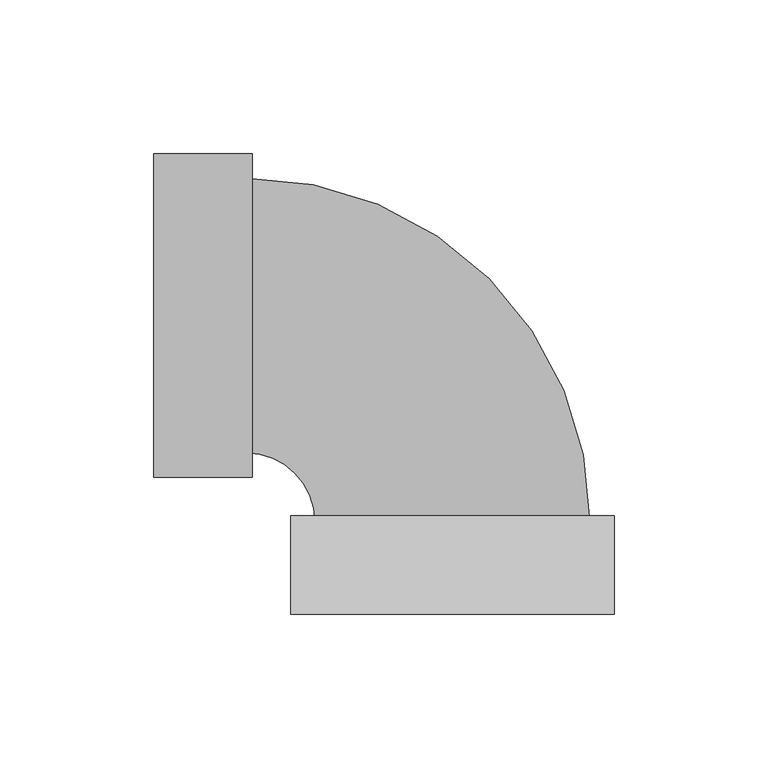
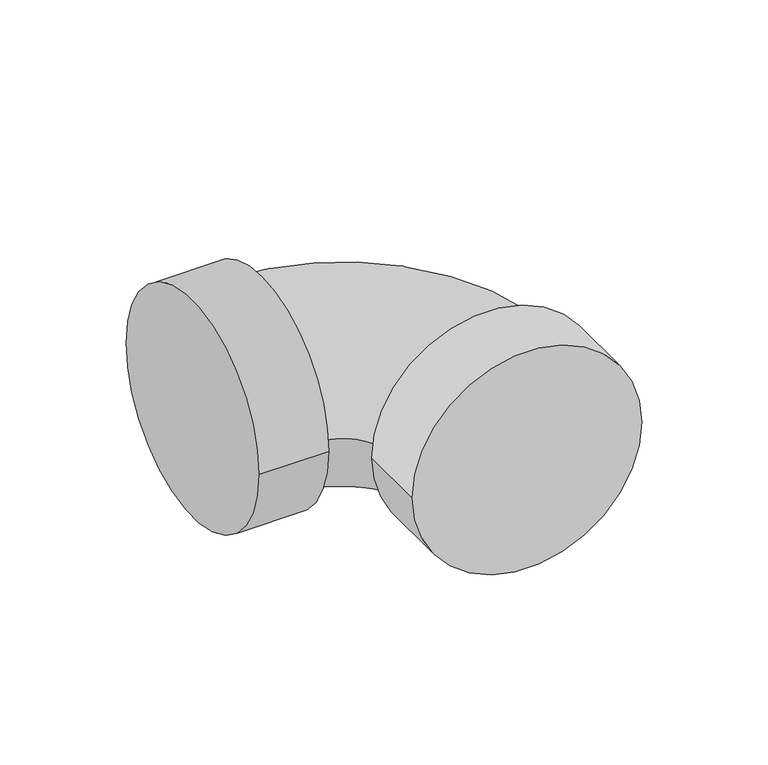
"""IFC4 building model written with IfcOpenShell, lengths in millimetres: pipe fitting geometry, 01011001 : Coudes à 90º."""

import ifcopenshell
import ifcopenshell.guid

model = None  # the IFC model being written
_history = None  # IfcOwnerHistory: only IFC2X3 demands one
_inside = {}  # id of a spatial element -> (the spatial element, [elements in it])
_under = {}  # id of a project, library or spatial element -> (it, [spatial elements below it])
_declared = {}  # id of a project -> (the project, [libraries it declares])
_typed = {}  # id of a type object -> (the type object, [elements of that type])
_made_of = {}  # id of a material, layer set ... -> (it, [elements and type objects made of it])


def new_model(schema):
    """Start an empty IFC model of exactly this schema.

    Asked for "IFC4X3", IfcOpenShell would pick the latest addendum, in which some entities
    have other attributes; the version numbers below select the first issue.
    IFC2X3 requires an IfcOwnerHistory on every rooted entity: one is made here for all.
    """
    global model, _history
    if schema == "IFC4X3":
        model = ifcopenshell.file(schema_version=(4, 3, 0, 0))
    else:
        model = ifcopenshell.file(schema=schema)
    _inside.clear()
    _under.clear()
    _declared.clear()
    _typed.clear()
    _made_of.clear()
    _history = None
    if model.schema == "IFC2X3":
        org = make("IfcOrganization", Name="unknown")
        user = make(
            "IfcPersonAndOrganization",
            ThePerson=make("IfcPerson", FamilyName="unknown"),
            TheOrganization=org,
        )
        app = make(
            "IfcApplication",
            ApplicationDeveloper=org,
            Version="unknown",
            ApplicationFullName="unknown",
            ApplicationIdentifier="unknown",
        )
        _history = make(
            "IfcOwnerHistory",
            OwningUser=user,
            OwningApplication=app,
            ChangeAction="ADDED",
            CreationDate=0,
        )
    return model


def make(cls, **values):
    """One entity of the class cls with the attributes given. An attribute that is None is left unset."""
    return model.create_entity(
        cls, **{name: value for name, value in values.items() if value is not None}
    )


def rooted(cls, **values):
    """An entity with a GlobalId (a new one), such as an element, a storey or a relation."""
    return make(cls, GlobalId=ifcopenshell.guid.new(), OwnerHistory=_history, **values)


def si_unit(unit_type, name, prefix=None):
    """IfcSIUnit, for example si_unit("LENGTHUNIT", "METRE", prefix="MILLI")."""
    return make("IfcSIUnit", UnitType=unit_type, Prefix=prefix, Name=name)


def assignment(units):
    """IfcUnitAssignment: the units of a project."""
    return None if units is None else make("IfcUnitAssignment", Units=units)


def point(xyz):
    """IfcCartesianPoint."""
    return None if xyz is None else make("IfcCartesianPoint", Coordinates=xyz)


def direction(xyz):
    """IfcDirection."""
    return None if xyz is None else make("IfcDirection", DirectionRatios=xyz)


def frame(location, z_axis=None, x_axis=None):
    """IfcAxis2Placement3D, a coordinate frame: its origin and axes. An axis left out is left unset."""
    return make(
        "IfcAxis2Placement3D",
        Location=point(location),
        Axis=direction(z_axis),
        RefDirection=direction(x_axis),
    )


def frame_2d(location, x_axis=None):
    """IfcAxis2Placement2D, a coordinate frame in the plane: its origin and x axis."""
    return make(
        "IfcAxis2Placement2D", Location=point(location), RefDirection=direction(x_axis)
    )


def origin():
    """The frame at (0, 0, 0) with its axes left unset."""
    return frame((0.0, 0.0, 0.0))


def origin_2d():
    """The frame at (0, 0) in the plane with its x axis left unset."""
    return frame_2d((0.0, 0.0))


def place(relative_to, where):
    """IfcLocalPlacement: puts the frame where relative to a parent placement (None: the world)."""
    return make(
        "IfcLocalPlacement", PlacementRelTo=relative_to, RelativePlacement=where
    )


def context(
    kind, dimensions, precision=None, world=None, true_north=None, identifier=None
):
    """IfcGeometricRepresentationContext, for example the 3D "Model" context."""
    return make(
        "IfcGeometricRepresentationContext",
        ContextIdentifier=identifier,
        ContextType=kind,
        CoordinateSpaceDimension=dimensions,
        Precision=precision,
        WorldCoordinateSystem=world,
        TrueNorth=true_north,
    )


def project(units=None, contexts=None):
    """IfcProject with its units and contexts."""
    return rooted(
        "IfcProject",
        Name="project",
        RepresentationContexts=contexts,
        UnitsInContext=assignment(units),
    )


def spatial(cls, under=None, at=None, **own):
    """A site, building, storey or space (cls), placed at a placement, below another one or the project."""
    s = rooted(cls, ObjectPlacement=at, **own)
    if under is not None:
        _under.setdefault(under.id(), (under, []))[1].append(s)
    return s


def circle_curve(where, radius):
    """IfcCircle in the frame where."""
    return make("IfcCircle", Position=where, Radius=radius)


def ellipse_curve(where, semi_axis1, semi_axis2):
    """IfcEllipse in the frame where."""
    return make(
        "IfcEllipse", Position=where, SemiAxis1=semi_axis1, SemiAxis2=semi_axis2
    )


def trimmed(basis, trim1, trim2, sense, master):
    """IfcTrimmedCurve: the piece of a basis curve between two trims."""
    return make(
        "IfcTrimmedCurve",
        BasisCurve=basis,
        Trim1=trim1,
        Trim2=trim2,
        SenseAgreement=sense,
        MasterRepresentation=master,
    )


def segment(curve, same_sense, transition):
    """IfcCompositeCurveSegment."""
    return make(
        "IfcCompositeCurveSegment",
        Transition=transition,
        SameSense=same_sense,
        ParentCurve=curve,
    )


def composite_curve(segments, self_intersect=None):
    """IfcCompositeCurve: segments joined end to end."""
    return make("IfcCompositeCurve", Segments=segments, SelfIntersect=self_intersect)


def outline(outer, holes=None, kind="AREA"):
    """IfcArbitraryClosedProfileDef: a profile drawn as a closed curve; with holes, ...WithVoids."""
    if holes is None:
        return make("IfcArbitraryClosedProfileDef", ProfileType=kind, OuterCurve=outer)
    return make(
        "IfcArbitraryProfileDefWithVoids",
        ProfileType=kind,
        OuterCurve=outer,
        InnerCurves=holes,
    )


def extrude(swept, where, along, depth):
    """IfcExtrudedAreaSolid: the profile swept, set in the frame where, extruded along a direction by depth."""
    return make(
        "IfcExtrudedAreaSolid",
        SweptArea=swept,
        Position=where,
        ExtrudedDirection=direction(along),
        Depth=depth,
    )


def shape(context_of_items, identifier, shape_type, items):
    """IfcShapeRepresentation: the items that make up one representation, for example the "Body"."""
    return make(
        "IfcShapeRepresentation",
        ContextOfItems=context_of_items,
        RepresentationIdentifier=identifier,
        RepresentationType=shape_type,
        Items=items,
    )


def source(mapping_origin, context_of_items, identifier, shape_type, items):
    """IfcRepresentationMap: a shape defined once, which mapped items show again and again."""
    return make(
        "IfcRepresentationMap",
        MappingOrigin=mapping_origin,
        MappedRepresentation=shape(context_of_items, identifier, shape_type, items),
    )


def transform(
    local_origin,
    x_axis=None,
    y_axis=None,
    z_axis=None,
    scale=None,
    scale2=None,
    scale3=None,
    uniform=True,
):
    """IfcCartesianTransformationOperator3D, or its non-uniform kind. x_axis, y_axis, z_axis: its Axis1, 2, 3."""
    if uniform:
        return make(
            "IfcCartesianTransformationOperator3D",
            Axis1=direction(x_axis),
            Axis2=direction(y_axis),
            LocalOrigin=point(local_origin),
            Scale=scale,
            Axis3=direction(z_axis),
        )
    return make(
        "IfcCartesianTransformationOperator3DnonUniform",
        Axis1=direction(x_axis),
        Axis2=direction(y_axis),
        LocalOrigin=point(local_origin),
        Scale=scale,
        Axis3=direction(z_axis),
        Scale2=scale2,
        Scale3=scale3,
    )


def mapped(mapping_source, mapping_target):
    """IfcMappedItem: shows the shape of a source again, moved by a transform."""
    return make(
        "IfcMappedItem", MappingSource=mapping_source, MappingTarget=mapping_target
    )


def made_of(thing, what):
    """Note that an element or type object is made of a material, layer set ...; save() writes the relation."""
    if what is not None:
        _made_of.setdefault(what.id(), (what, []))[1].append(thing)
    return thing


def element(
    cls,
    number,
    at=None,
    inside=None,
    cuts=None,
    type_object=None,
    material=None,
    context=None,
    identifier="Body",
    shape_type=None,
    held_by="IfcProductDefinitionShape",
    body=None,
    shapes=None,
    **own,
):
    """One element of the class cls, such as IfcWall. Its Tag is "e" and its number.

    at: its placement. inside: the storey or other place that contains it. cuts: it is an
    opening in that element (IfcRelVoidsElement). A single representation is given by context,
    identifier, shape_type and body (its items); several are given by shapes. held_by: the class
    of the entity that holds the representations. save() writes the other relations.
    """
    e = rooted(cls, Tag="e%d" % number, ObjectPlacement=at, **own)
    if body is not None:
        shapes = [shape(context, identifier, shape_type, body)]
    if shapes is not None:
        e.Representation = make(held_by, Representations=shapes)
    if inside is not None:
        _inside.setdefault(inside.id(), (inside, []))[1].append(e)
    if cuts is not None:
        rooted(
            "IfcRelVoidsElement", RelatingBuildingElement=cuts, RelatedOpeningElement=e
        )
    if type_object is not None:
        _typed.setdefault(type_object.id(), (type_object, []))[1].append(e)
    return made_of(e, material)


def aggregate(whole, parts):
    """IfcRelAggregates: a whole, such as a stair, and the parts it consists of."""
    return rooted("IfcRelAggregates", RelatingObject=whole, RelatedObjects=parts)


def save(model, path):
    """Write the relations noted so far, then the file.

    IfcRelAggregates (storeys below a building ...), IfcRelContainedInSpatialStructure (elements
    in a storey), IfcRelDefinesByType, IfcRelAssociatesMaterial and IfcRelDeclares: one each for
    every whole, place, type object, material and project.
    """
    for whole, parts in _under.values():
        aggregate(whole, parts)
    for where, things in _inside.values():
        rooted(
            "IfcRelContainedInSpatialStructure",
            RelatedElements=things,
            RelatingStructure=where,
        )
    for kind, things in _typed.values():
        rooted("IfcRelDefinesByType", RelatedObjects=things, RelatingType=kind)
    for what, things in _made_of.values():
        rooted("IfcRelAssociatesMaterial", RelatedObjects=things, RelatingMaterial=what)
    for by, libraries in _declared.values():
        rooted("IfcRelDeclares", RelatingContext=by, RelatedDefinitions=libraries)
    model.write(path)


def plane_surface(at):
    """IfcPlane: the flat surface through the origin of the frame at, square to its z axis."""
    return make("IfcPlane", Position=at)


def revolved_surface(curve, axis_point, axis_direction):
    """IfcSurfaceOfRevolution: the curve turned about the line through axis_point along axis_direction."""
    return make(
        "IfcSurfaceOfRevolution",
        SweptCurve=make("IfcArbitraryOpenProfileDef", ProfileType="CURVE", Curve=curve),
        AxisPosition=make("IfcAxis1Placement", Location=point(axis_point), Axis=direction(axis_direction)),
    )


def advanced_brep(points, edges, surfaces, faces):
    """IfcAdvancedBrep: a solid bounded by faces that lie on surfaces and meet in shared edges.

    An edge is (start, end): straight between two places in points (the first is 0);
    or (start, end, curve); or (start, end, curve, False) where it runs against its curve.
    A face is (place in surfaces, loops), or (place, loops, False) where it looks against
    its surface's normal. A loop lists edges by number (the first is 1), with a minus sign
    where the edge is run from its end to its start. The first loop is the outer one.
    """
    corners = [point(p) for p in points]
    vertices = [make("IfcVertexPoint", VertexGeometry=c) for c in corners]
    made = []
    for start, end, *more in edges:
        made.append(
            make(
                "IfcEdgeCurve",
                EdgeStart=vertices[start],
                EdgeEnd=vertices[end],
                EdgeGeometry=more[0] if more else make("IfcPolyline", Points=[corners[start], corners[end]]),
                SameSense=more[1] if len(more) > 1 else True,
            )
        )
    hull = []
    for where, loops, *sense in faces:
        bounds = []
        for j, loop in enumerate(loops):
            ring = [make("IfcOrientedEdge", EdgeElement=made[abs(k) - 1], Orientation=k > 0) for k in loop]
            bounds.append(
                make(
                    "IfcFaceOuterBound" if j == 0 else "IfcFaceBound",
                    Bound=make("IfcEdgeLoop", EdgeList=ring),
                    Orientation=True,
                )
            )
        hull.append(make("IfcAdvancedFace", Bounds=bounds, FaceSurface=surfaces[where], SameSense=sense[0] if sense else True))
    return make("IfcAdvancedBrep", Outer=make("IfcClosedShell", CfsFaces=hull))


def pipe_fitting_355c8532(model_context):
    return source(origin(), model_context, "Body", "SolidModel", [
        extrude(outline(composite_curve([segment(trimmed(circle_curve(origin_2d(), 52.5), [point((0.0, -52.5))], [point((0.0, 52.5))], False, "CARTESIAN"), True, "CONTINUOUS"), segment(trimmed(circle_curve(origin_2d(), 52.5), [point((0.0, 52.5))], [point((0.0, -52.5))], False, "CARTESIAN"), True, "CONTINUOUS")], self_intersect=False)), frame((0.0, -97.0, 0.0), z_axis=(0.0, 1.0, 0.0), x_axis=(0.0, 0.0, 1.0)), (0.0, 0.0, 1.0), 32.0),
        extrude(outline(composite_curve([segment(trimmed(circle_curve(origin_2d(), 52.5), [point((52.5, 0.0))], [point((-52.5, 0.0))], False, "CARTESIAN"), True, "CONTINUOUS"), segment(trimmed(circle_curve(origin_2d(), 52.5), [point((-52.5, 0.0))], [point((52.5, 0.0))], False, "CARTESIAN"), True, "CONTINUOUS")], self_intersect=False)), frame((-97.0, 0.0, 0.0), z_axis=(1.0, 0.0, 0.0), x_axis=(0.0, 1.0, 0.0)), (0.0, 0.0, 1.0), 32.0),
        advanced_brep(
        [(-44.625, -67.0, 0.0), (44.625, -67.0, 0.0), (-67.0, -44.625, 0.0), (-67.0, 44.625, 0.0)],
        [
            (0, 1, circle_curve(frame((0.0, -67.0, 0.0), z_axis=(0.0, -1.0, 0.0), x_axis=(1.0, 0.0, 0.0)), 44.625)),
            (1, 0, circle_curve(frame((0.0, -67.0, 0.0), z_axis=(0.0, -1.0, 0.0), x_axis=(1.0, 0.0, 0.0)), 44.625)),
            (2, 3, circle_curve(frame((-67.0, 0.0, 0.0), z_axis=(-1.0, 0.0, 0.0), x_axis=(0.0, 1.0, 0.0)), 44.625)),
            (3, 2, circle_curve(frame((-67.0, 0.0, 0.0), z_axis=(-1.0, 0.0, 0.0), x_axis=(0.0, 1.0, 0.0)), 44.625)),
            (2, 0, circle_curve(frame((-67.0, -67.0, 0.0), z_axis=(0.0, 0.0, -1.0), x_axis=(1.0, 0.0, 0.0)), 22.375)),
            (1, 3, circle_curve(frame((-67.0, -67.0, 0.0), z_axis=(0.0, 0.0, 1.0), x_axis=(1.0, 0.0, 0.0)), 111.625)),
        ],
        [
            plane_surface(frame((0.0, -67.0, 0.0), z_axis=(0.0, -1.0, 0.0), x_axis=(0.0, 0.0, 1.0))),
            plane_surface(frame((-67.0, 0.0, 0.0), z_axis=(-1.0, 0.0, 0.0), x_axis=(0.0, 0.0, 1.0))),
            revolved_surface(trimmed(ellipse_curve(frame((0.0, -67.0, 0.0), z_axis=(0.0, 1.0, 0.0), x_axis=(1.0, 0.0, 0.0)), 44.625, 44.625), [point((-44.625, -67.0, 0.0))], [point((44.625, -67.0, 0.0))], True, "CARTESIAN"), (-67.0, -67.0, 0.0), (0.0, 0.0, -1.0)),
            revolved_surface(trimmed(ellipse_curve(frame((0.0, -67.0, 0.0), z_axis=(0.0, 1.0, 0.0), x_axis=(1.0, 0.0, 0.0)), 44.625, 44.625), [point((44.625, -67.0, 0.0))], [point((-44.625, -67.0, 0.0))], True, "CARTESIAN"), (-67.0, -67.0, 0.0), (0.0, 0.0, -1.0)),
        ],
        [
            (0, [[1, 2]]),
            (1, [[3, 4]]),
            (2, [[-3, 5, -2, 6]]),
            (3, [[-4, -6, -1, -5]]),
        ],
    ),
    ])


if __name__ == "__main__":
    model = new_model("IFC4")
    model_context = context("Model", 3, world=origin())
    ifc_project = project(units=[si_unit("LENGTHUNIT", "METRE", prefix="MILLI")], contexts=[model_context])
    site = spatial("IfcSite", under=ifc_project)
    building = spatial("IfcBuilding", under=site)
    placement = place(None, origin())
    pipe_fitting_shape = pipe_fitting_355c8532(model_context)
    element("IfcPipeFitting", 1, ObjectType="01011001 : Coudes à 90º", at=placement, inside=building, context=model_context, shape_type="MappedRepresentation", body=[
        mapped(pipe_fitting_shape, transform((0.0, 0.0, 0.0), x_axis=(1.0, 0.0, 0.0), y_axis=(0.0, 1.0, 0.0), z_axis=(0.0, 0.0, 1.0))),
    ])
    save(model, "model.ifc")
